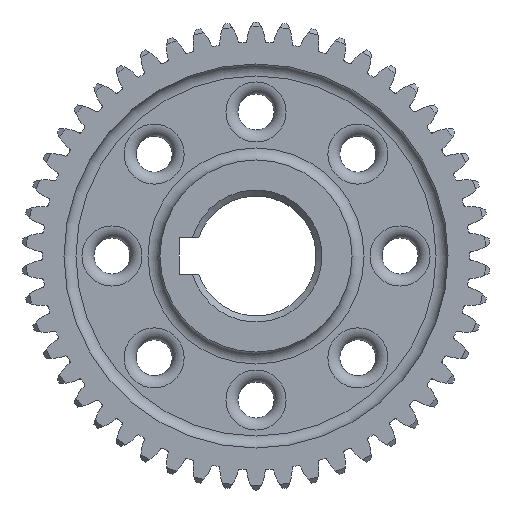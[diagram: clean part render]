
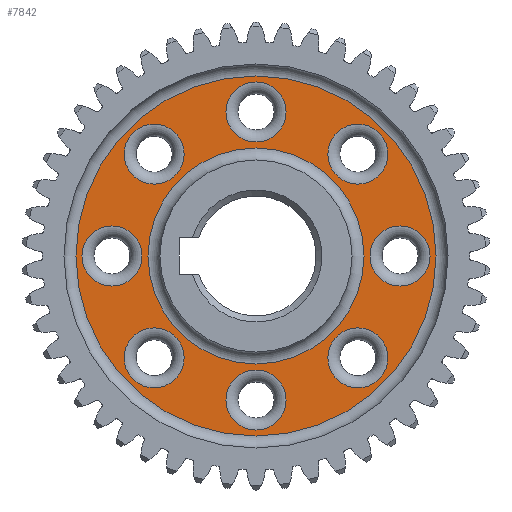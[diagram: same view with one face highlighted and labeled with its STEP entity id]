
A CAD part, left-side view. The second image highlights one B-rep face of the part: STEP entity #7842.
In plain terms, the highlighted planar face has unit normal (-1, 0, 0).
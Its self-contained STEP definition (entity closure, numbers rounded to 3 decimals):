
#215=FACE_BOUND('',#1675,.T.);
#216=FACE_BOUND('',#1676,.T.);
#217=FACE_BOUND('',#1677,.T.);
#218=FACE_BOUND('',#1678,.T.);
#219=FACE_BOUND('',#1679,.T.);
#220=FACE_BOUND('',#1680,.T.);
#221=FACE_BOUND('',#1681,.T.);
#222=FACE_BOUND('',#1682,.T.);
#223=FACE_BOUND('',#1683,.T.);
#259=PLANE('',#8319);
#1230=FACE_OUTER_BOUND('',#1674,.T.);
#1674=EDGE_LOOP('',(#5144));
#1675=EDGE_LOOP('',(#5145));
#1676=EDGE_LOOP('',(#5146));
#1677=EDGE_LOOP('',(#5147));
#1678=EDGE_LOOP('',(#5148));
#1679=EDGE_LOOP('',(#5149));
#1680=EDGE_LOOP('',(#5150));
#1681=EDGE_LOOP('',(#5151));
#1682=EDGE_LOOP('',(#5152));
#1683=EDGE_LOOP('',(#5153));
#2137=CIRCLE('',#8312,5.);
#2143=CIRCLE('',#8320,30.);
#2144=CIRCLE('',#8321,5.);
#2145=CIRCLE('',#8322,5.);
#2146=CIRCLE('',#8323,5.);
#2147=CIRCLE('',#8324,5.);
#2148=CIRCLE('',#8325,18.);
#2149=CIRCLE('',#8326,5.);
#2150=CIRCLE('',#8327,5.);
#2151=CIRCLE('',#8328,5.);
#2935=VERTEX_POINT('',#12359);
#2940=VERTEX_POINT('',#12373);
#2941=VERTEX_POINT('',#12375);
#2942=VERTEX_POINT('',#12377);
#2943=VERTEX_POINT('',#12379);
#2944=VERTEX_POINT('',#12381);
#2945=VERTEX_POINT('',#12383);
#2946=VERTEX_POINT('',#12385);
#2947=VERTEX_POINT('',#12387);
#2948=VERTEX_POINT('',#12389);
#3813=EDGE_CURVE('',#2935,#2935,#2137,.T.);
#3820=EDGE_CURVE('',#2940,#2940,#2143,.T.);
#3821=EDGE_CURVE('',#2941,#2941,#2144,.T.);
#3822=EDGE_CURVE('',#2942,#2942,#2145,.T.);
#3823=EDGE_CURVE('',#2943,#2943,#2146,.T.);
#3824=EDGE_CURVE('',#2944,#2944,#2147,.T.);
#3825=EDGE_CURVE('',#2945,#2945,#2148,.T.);
#3826=EDGE_CURVE('',#2946,#2946,#2149,.T.);
#3827=EDGE_CURVE('',#2947,#2947,#2150,.T.);
#3828=EDGE_CURVE('',#2948,#2948,#2151,.T.);
#5144=ORIENTED_EDGE('',*,*,#3820,.F.);
#5145=ORIENTED_EDGE('',*,*,#3821,.F.);
#5146=ORIENTED_EDGE('',*,*,#3822,.F.);
#5147=ORIENTED_EDGE('',*,*,#3823,.F.);
#5148=ORIENTED_EDGE('',*,*,#3824,.F.);
#5149=ORIENTED_EDGE('',*,*,#3825,.F.);
#5150=ORIENTED_EDGE('',*,*,#3826,.F.);
#5151=ORIENTED_EDGE('',*,*,#3827,.F.);
#5152=ORIENTED_EDGE('',*,*,#3828,.F.);
#5153=ORIENTED_EDGE('',*,*,#3813,.F.);
#7842=ADVANCED_FACE('',(#1230,#215,#216,#217,#218,#219,#220,#221,#222,#223),
#259,.F.);
#8312=AXIS2_PLACEMENT_3D('',#12360,#9562,#9563);
#8319=AXIS2_PLACEMENT_3D('',#12372,#9577,#9578);
#8320=AXIS2_PLACEMENT_3D('',#12374,#9579,#9580);
#8321=AXIS2_PLACEMENT_3D('',#12376,#9581,#9582);
#8322=AXIS2_PLACEMENT_3D('',#12378,#9583,#9584);
#8323=AXIS2_PLACEMENT_3D('',#12380,#9585,#9586);
#8324=AXIS2_PLACEMENT_3D('',#12382,#9587,#9588);
#8325=AXIS2_PLACEMENT_3D('',#12384,#9589,#9590);
#8326=AXIS2_PLACEMENT_3D('',#12386,#9591,#9592);
#8327=AXIS2_PLACEMENT_3D('',#12388,#9593,#9594);
#8328=AXIS2_PLACEMENT_3D('',#12390,#9595,#9596);
#9562=DIRECTION('center_axis',(-1.,0.,0.));
#9563=DIRECTION('ref_axis',(0.,-0.707,-0.707));
#9577=DIRECTION('center_axis',(1.,0.,0.));
#9578=DIRECTION('ref_axis',(0.,0.,-1.));
#9579=DIRECTION('center_axis',(1.,0.,0.));
#9580=DIRECTION('ref_axis',(0.,0.,1.));
#9581=DIRECTION('center_axis',(-1.,0.,0.));
#9582=DIRECTION('ref_axis',(0.,-1.,0.));
#9583=DIRECTION('center_axis',(-1.,0.,0.));
#9584=DIRECTION('ref_axis',(0.,0.,1.));
#9585=DIRECTION('center_axis',(-1.,0.,0.));
#9586=DIRECTION('ref_axis',(0.,1.,0.));
#9587=DIRECTION('center_axis',(-1.,0.,0.));
#9588=DIRECTION('ref_axis',(0.,0.,-1.));
#9589=DIRECTION('center_axis',(-1.,0.,0.));
#9590=DIRECTION('ref_axis',(0.,0.,1.));
#9591=DIRECTION('center_axis',(-1.,0.,0.));
#9592=DIRECTION('ref_axis',(0.,0.707,-0.707));
#9593=DIRECTION('center_axis',(-1.,0.,0.));
#9594=DIRECTION('ref_axis',(0.,0.707,0.707));
#9595=DIRECTION('center_axis',(-1.,0.,0.));
#9596=DIRECTION('ref_axis',(0.,-0.707,0.707));
#12359=CARTESIAN_POINT('',(-4.,16.971,-11.971));
#12360=CARTESIAN_POINT('Origin',(-4.,16.971,-16.971));
#12372=CARTESIAN_POINT('Origin',(-4.,0.,0.));
#12373=CARTESIAN_POINT('',(-4.,0.,-30.));
#12374=CARTESIAN_POINT('Origin',(-4.,0.,0.));
#12375=CARTESIAN_POINT('',(-4.,0.,-19.));
#12376=CARTESIAN_POINT('Origin',(-4.,0.,-24.));
#12377=CARTESIAN_POINT('',(-4.,-24.,5.));
#12378=CARTESIAN_POINT('Origin',(-4.,-24.,0.));
#12379=CARTESIAN_POINT('',(-4.,0.,29.));
#12380=CARTESIAN_POINT('Origin',(-4.,0.,24.));
#12381=CARTESIAN_POINT('',(-4.,24.,5.));
#12382=CARTESIAN_POINT('Origin',(-4.,24.,0.));
#12383=CARTESIAN_POINT('',(-4.,0.,18.));
#12384=CARTESIAN_POINT('Origin',(-4.,0.,0.));
#12385=CARTESIAN_POINT('',(-4.,16.971,21.971));
#12386=CARTESIAN_POINT('Origin',(-4.,16.971,16.971));
#12387=CARTESIAN_POINT('',(-4.,-16.971,21.971));
#12388=CARTESIAN_POINT('Origin',(-4.,-16.971,16.971));
#12389=CARTESIAN_POINT('',(-4.,-16.971,-11.971));
#12390=CARTESIAN_POINT('Origin',(-4.,-16.971,-16.971));
